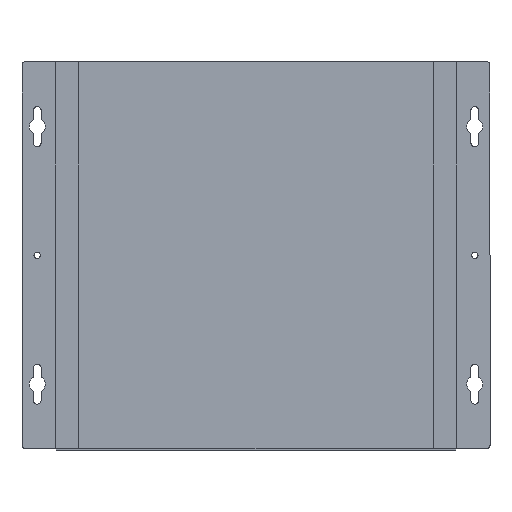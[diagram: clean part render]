
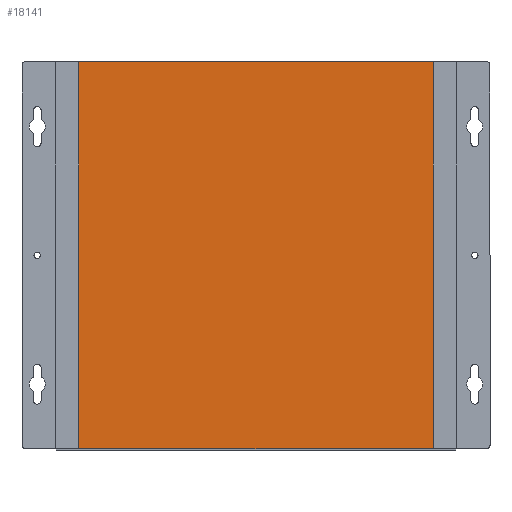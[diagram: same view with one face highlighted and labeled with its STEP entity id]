
A CAD part, front view. The second image highlights one B-rep face of the part: STEP entity #18141.
In plain terms, the highlighted planar face has unit normal (0, -1, 0).
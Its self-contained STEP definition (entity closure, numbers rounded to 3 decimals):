
#635 = VECTOR ( 'NONE', #19068, 1000. ) ;
#884 = DIRECTION ( 'NONE',  ( 0., 0., -1. ) ) ;
#1610 = CARTESIAN_POINT ( 'NONE',  ( -67.448, -37.285, 242.2 ) ) ;
#2144 = CARTESIAN_POINT ( 'NONE',  ( 154.552, -37.285, 242.2 ) ) ;
#2483 = LINE ( 'NONE', #17092, #3340 ) ;
#3340 = VECTOR ( 'NONE', #3957, 1000. ) ;
#3957 = DIRECTION ( 'NONE',  ( 1., 0., 0. ) ) ;
#4500 = EDGE_CURVE ( 'NONE', #15784, #19015, #2483, .T. ) ;
#4741 = VECTOR ( 'NONE', #18321, 1000. ) ;
#4923 = EDGE_CURVE ( 'NONE', #19015, #16678, #16536, .T. ) ;
#5005 = DIRECTION ( 'NONE',  ( 0., 1., 0. ) ) ;
#6285 = ORIENTED_EDGE ( 'NONE', *, *, #4923, .F. ) ;
#6490 = EDGE_CURVE ( 'NONE', #15784, #7217, #16943, .T. ) ;
#7217 = VERTEX_POINT ( 'NONE', #11486 ) ;
#10251 = ORIENTED_EDGE ( 'NONE', *, *, #18308, .T. ) ;
#10387 = EDGE_LOOP ( 'NONE', ( #18222, #12286, #10251, #6285 ) ) ;
#11486 = CARTESIAN_POINT ( 'NONE',  ( -67.448, -37.285, 0. ) ) ;
#12286 = ORIENTED_EDGE ( 'NONE', *, *, #6490, .T. ) ;
#12629 = CARTESIAN_POINT ( 'NONE',  ( -81.448, -37.285, 0. ) ) ;
#13170 = PLANE ( 'NONE',  #17520 ) ;
#14137 = CARTESIAN_POINT ( 'NONE',  ( 154.552, -37.285, 242.2 ) ) ;
#14861 = CARTESIAN_POINT ( 'NONE',  ( -81.448, -37.285, 242.2 ) ) ;
#15784 = VERTEX_POINT ( 'NONE', #1610 ) ;
#16533 = VECTOR ( 'NONE', #884, 1000. ) ;
#16536 = LINE ( 'NONE', #2144, #16533 ) ;
#16678 = VERTEX_POINT ( 'NONE', #19395 ) ;
#16943 = LINE ( 'NONE', #18527, #4741 ) ;
#17092 = CARTESIAN_POINT ( 'NONE',  ( -81.448, -37.285, 242.2 ) ) ;
#17520 = AXIS2_PLACEMENT_3D ( 'NONE', #14861, #5005, #18130 ) ;
#18130 = DIRECTION ( 'NONE',  ( 0., 0., 1. ) ) ;
#18141 = ADVANCED_FACE ( 'NONE', ( #19486 ), #13170, .F. ) ;
#18222 = ORIENTED_EDGE ( 'NONE', *, *, #4500, .F. ) ;
#18308 = EDGE_CURVE ( 'NONE', #7217, #16678, #18555, .T. ) ;
#18321 = DIRECTION ( 'NONE',  ( 0., 0., -1. ) ) ;
#18527 = CARTESIAN_POINT ( 'NONE',  ( -67.448, -37.285, 242.2 ) ) ;
#18555 = LINE ( 'NONE', #12629, #635 ) ;
#19015 = VERTEX_POINT ( 'NONE', #14137 ) ;
#19068 = DIRECTION ( 'NONE',  ( 1., 0., 0. ) ) ;
#19395 = CARTESIAN_POINT ( 'NONE',  ( 154.552, -37.285, 0. ) ) ;
#19486 = FACE_OUTER_BOUND ( 'NONE', #10387, .T. ) ;
